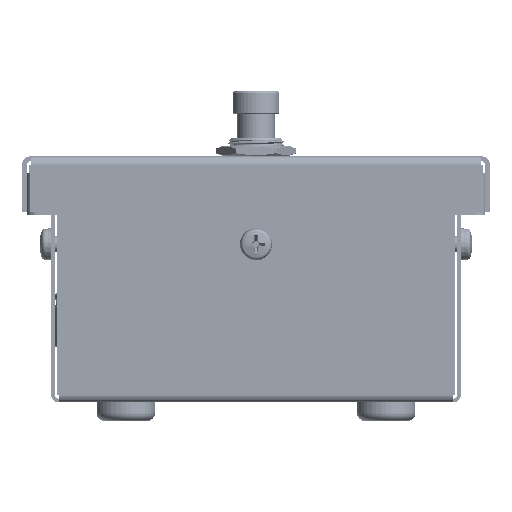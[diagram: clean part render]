
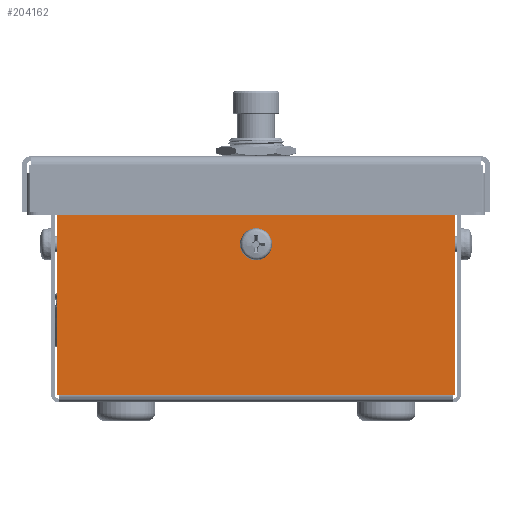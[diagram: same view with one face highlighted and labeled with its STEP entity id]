
A CAD part, front view. The second image highlights one B-rep face of the part: STEP entity #204162.
In plain terms, the highlighted planar face has unit normal (0, -1, 0).
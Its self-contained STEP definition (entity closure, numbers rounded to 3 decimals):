
#203546 = VERTEX_POINT('',#203547);
#203547 = CARTESIAN_POINT('',(-1.588,-119.8,33.75));
#203563 = EDGE_CURVE('',#203546,#203546,#203564,.T.);
#203564 = CIRCLE('',#203565,1.588);
#203565 = AXIS2_PLACEMENT_3D('',#203566,#203567,#203568);
#203566 = CARTESIAN_POINT('',(0.,-119.8,33.75));
#203567 = DIRECTION('',(0.,1.,0.));
#203568 = DIRECTION('',(1.,0.,0.));
#203875 = EDGE_CURVE('',#203876,#203878,#203880,.T.);
#203876 = VERTEX_POINT('',#203877);
#203877 = CARTESIAN_POINT('',(-42.2,-119.8,1.6));
#203878 = VERTEX_POINT('',#203879);
#203879 = CARTESIAN_POINT('',(42.2,-119.8,1.6));
#203880 = LINE('',#203881,#203882);
#203881 = CARTESIAN_POINT('',(0.,-119.8,1.6));
#203882 = VECTOR('',#203883,1.);
#203883 = DIRECTION('',(1.,0.,0.));
#203978 = VERTEX_POINT('',#203979);
#203979 = CARTESIAN_POINT('',(42.434,-119.8,40.));
#203985 = EDGE_CURVE('',#203986,#203978,#203988,.T.);
#203986 = VERTEX_POINT('',#203987);
#203987 = CARTESIAN_POINT('',(42.434,-119.8,1.6));
#203988 = LINE('',#203989,#203990);
#203989 = CARTESIAN_POINT('',(42.434,-119.8,1.6));
#203990 = VECTOR('',#203991,1.);
#203991 = DIRECTION('',(0.,0.,1.));
#204009 = EDGE_CURVE('',#203878,#203986,#204010,.T.);
#204010 = LINE('',#204011,#204012);
#204011 = CARTESIAN_POINT('',(42.2,-119.8,1.6));
#204012 = VECTOR('',#204013,1.);
#204013 = DIRECTION('',(1.,0.,0.));
#204086 = EDGE_CURVE('',#204087,#203876,#204089,.T.);
#204087 = VERTEX_POINT('',#204088);
#204088 = CARTESIAN_POINT('',(-42.434,-119.8,1.6));
#204089 = LINE('',#204090,#204091);
#204090 = CARTESIAN_POINT('',(-42.2,-119.8,1.6));
#204091 = VECTOR('',#204092,1.);
#204092 = DIRECTION('',(1.,0.,0.));
#204110 = EDGE_CURVE('',#204111,#204087,#204113,.T.);
#204111 = VERTEX_POINT('',#204112);
#204112 = CARTESIAN_POINT('',(-42.434,-119.8,40.));
#204113 = LINE('',#204114,#204115);
#204114 = CARTESIAN_POINT('',(-42.434,-119.8,1.6));
#204115 = VECTOR('',#204116,1.);
#204116 = DIRECTION('',(0.,0.,-1.));
#204134 = EDGE_CURVE('',#203978,#204111,#204135,.T.);
#204135 = LINE('',#204136,#204137);
#204136 = CARTESIAN_POINT('',(-42.434,-119.8,40.));
#204137 = VECTOR('',#204138,1.);
#204138 = DIRECTION('',(-1.,0.,0.));
#204162 = ADVANCED_FACE('',(#204163,#204171),#204174,.T.);
#204163 = FACE_BOUND('',#204164,.T.);
#204164 = EDGE_LOOP('',(#204165,#204166,#204167,#204168,#204169,#204170)
  );
#204165 = ORIENTED_EDGE('',*,*,#203875,.T.);
#204166 = ORIENTED_EDGE('',*,*,#204009,.T.);
#204167 = ORIENTED_EDGE('',*,*,#203985,.T.);
#204168 = ORIENTED_EDGE('',*,*,#204134,.T.);
#204169 = ORIENTED_EDGE('',*,*,#204110,.T.);
#204170 = ORIENTED_EDGE('',*,*,#204086,.T.);
#204171 = FACE_BOUND('',#204172,.T.);
#204172 = EDGE_LOOP('',(#204173));
#204173 = ORIENTED_EDGE('',*,*,#203563,.T.);
#204174 = PLANE('',#204175);
#204175 = AXIS2_PLACEMENT_3D('',#204176,#204177,#204178);
#204176 = CARTESIAN_POINT('',(0.,-119.8,19.899));
#204177 = DIRECTION('',(0.,-1.,0.));
#204178 = DIRECTION('',(-1.,0.,0.));
